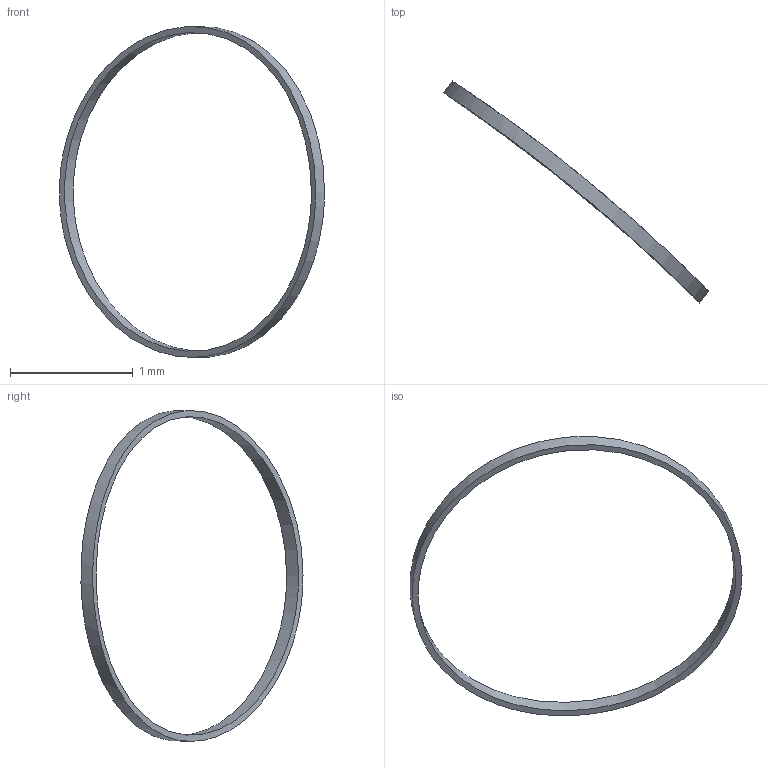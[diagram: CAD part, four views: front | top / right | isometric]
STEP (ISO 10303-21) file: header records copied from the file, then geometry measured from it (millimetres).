
FILE_DESCRIPTION(('FreeCAD Model'),'2;1');
FILE_NAME('Open CASCADE Shape Model','2026-10-23T21:15:58',('FreeCAD'),( 'FreeCAD'),'Open CASCADE STEP processor 7.8','FreeCAD','Unknown');
FILE_SCHEMA(('AUTOMOTIVE_DESIGN { 1 0 10303 214 1 1 1 1 }'));
Length unit declared in the file: millimetre
Products named in the file (1): Open CASCADE STEP translator 7.8 32
Bounding box: 2.16 x 1.81 x 2.7 mm (x, y, z)
Volume: 0.1 mm3; surface area: 2.8 mm2
Topology: 1 solids, 1 shells, 4 faces, 10 edges, 8 vertices
Faces by surface type: revolution 2, cylinder 2
Full cylindrical faces by diameter (mm): 2.6 x1, 2.7 x1
Entity records: 682 total; most frequent: CARTESIAN_POINT 581, ORIENTED_EDGE 20, DIRECTION 10, EDGE_CURVE 10, B_SPLINE_CURVE_WITH_KNOTS 10, VERTEX_POINT 8, FACE_BOUND 6, EDGE_LOOP 6
